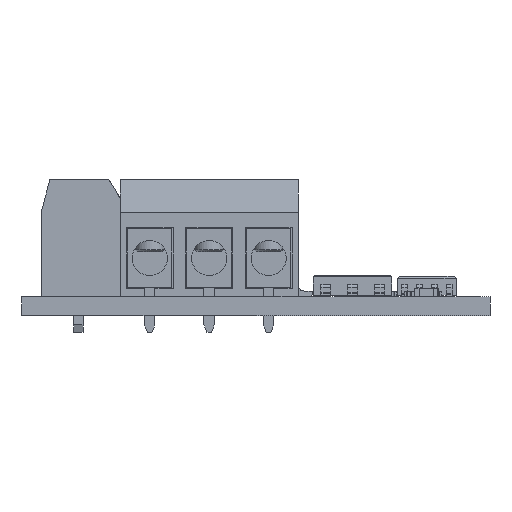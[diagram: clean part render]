
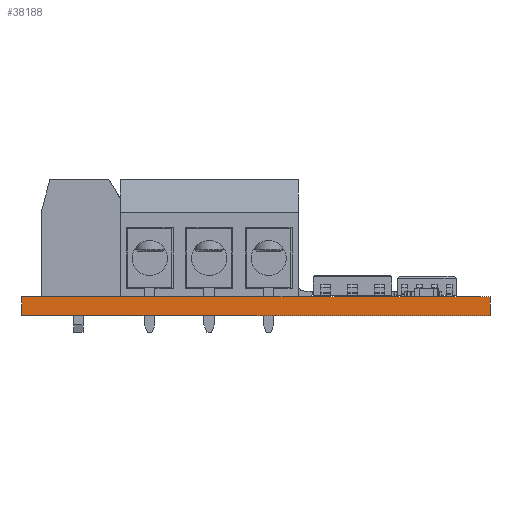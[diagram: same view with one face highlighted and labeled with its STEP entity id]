
A CAD part, left-side view. The second image highlights one B-rep face of the part: STEP entity #38188.
In plain terms, the highlighted planar face has unit normal (-1, 0, 0).
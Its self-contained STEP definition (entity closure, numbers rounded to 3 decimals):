
#2795=PLANE('',#40822);
#4235=FACE_OUTER_BOUND('',#6298,.T.);
#6298=EDGE_LOOP('',(#27060,#27061,#27062,#27063));
#8668=LINE('',#55113,#12568);
#8676=LINE('',#55128,#12576);
#8677=LINE('',#55130,#12577);
#8678=LINE('',#55131,#12578);
#12568=VECTOR('',#44524,10.);
#12576=VECTOR('',#44536,10.);
#12577=VECTOR('',#44539,10.);
#12578=VECTOR('',#44540,10.);
#17821=VERTEX_POINT('',#55110);
#17822=VERTEX_POINT('',#55112);
#17826=VERTEX_POINT('',#55124);
#17827=VERTEX_POINT('',#55126);
#21496=EDGE_CURVE('',#17821,#17822,#8668,.T.);
#21504=EDGE_CURVE('',#17826,#17827,#8676,.T.);
#21505=EDGE_CURVE('',#17821,#17826,#8677,.T.);
#21506=EDGE_CURVE('',#17822,#17827,#8678,.T.);
#27060=ORIENTED_EDGE('',*,*,#21505,.T.);
#27061=ORIENTED_EDGE('',*,*,#21504,.T.);
#27062=ORIENTED_EDGE('',*,*,#21506,.F.);
#27063=ORIENTED_EDGE('',*,*,#21496,.F.);
#38188=ADVANCED_FACE('',(#4235),#2795,.T.);
#40822=AXIS2_PLACEMENT_3D('',#55129,#44537,#44538);
#44524=DIRECTION('',(0.,0.,1.));
#44536=DIRECTION('',(0.,0.,1.));
#44537=DIRECTION('center_axis',(-1.,0.,0.));
#44538=DIRECTION('ref_axis',(0.,-1.,0.));
#44539=DIRECTION('',(0.,-1.,0.));
#44540=DIRECTION('',(0.,-1.,0.));
#55110=CARTESIAN_POINT('',(0.,40.,0.));
#55112=CARTESIAN_POINT('',(0.,40.,1.623));
#55113=CARTESIAN_POINT('',(0.,40.,0.));
#55124=CARTESIAN_POINT('',(0.,0.,0.));
#55126=CARTESIAN_POINT('',(0.,0.,1.623));
#55128=CARTESIAN_POINT('',(0.,0.,0.));
#55129=CARTESIAN_POINT('Origin',(0.,40.,0.));
#55130=CARTESIAN_POINT('',(0.,40.,0.));
#55131=CARTESIAN_POINT('',(0.,40.,1.623));
